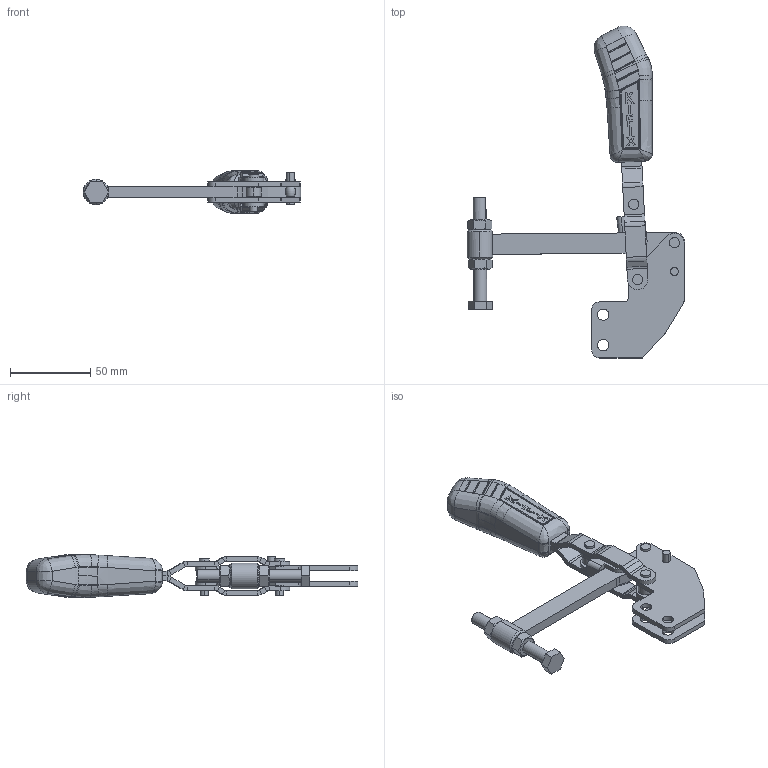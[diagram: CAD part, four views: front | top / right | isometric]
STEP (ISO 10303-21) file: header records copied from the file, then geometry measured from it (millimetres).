
FILE_DESCRIPTION (( 'STEP AP203' ), '1' );
FILE_NAME ('KF-211 RS.STEP', '2014-07-31T13:50:28', ( 'Ricardo' ), ( '' ), 'SwSTEP 2.0', 'SolidWorks 2013', '' );
FILE_SCHEMA (( 'CONFIG_CONTROL_DESIGN' ));
Length unit declared in the file: millimetre
Products named in the file (14): 03.15002; 02.11022; 20.20004; 06.50001; 12.50020; 05.20001; 11.50002; 01.10005; PSB-M8; 04.10001; KF-211 RS; 06.50002; 04.20001; 07.60001
Assembly tree (19 placements, depth 3):
  KF-211 RS
    02.11022  x2
    06.50001  x2
    05.20001  x2
    01.10005  x2
    04.10001
    06.50002  x2
    04.20001
    07.60001
    03.15002
    PSB-M8
      20.20004
      12.50020
      11.50002  x2
Bounding box: 136.04 x 207.31 x 27.02 mm (x, y, z)
Volume: 92605.7 mm3; surface area: 47766 mm2
Topology: 18 solids, 18 shells, 684 faces, 1681 edges, 1048 vertices
Faces by surface type: plane 297, cylinder 210, bspline 126, cone 46, torus 5
Entity records: 21557 total; most frequent: CARTESIAN_POINT 8126, ORIENTED_EDGE 2728, DIRECTION 2030, EDGE_CURVE 1364, VERTEX_POINT 864, AXIS2_PLACEMENT_3D 722, EDGE_LOOP 604, VECTOR 586
